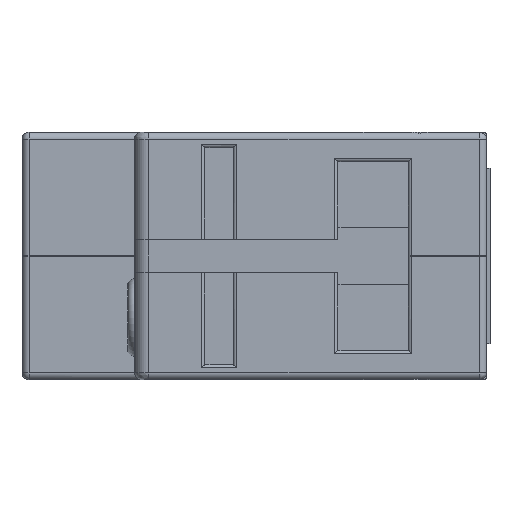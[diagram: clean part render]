
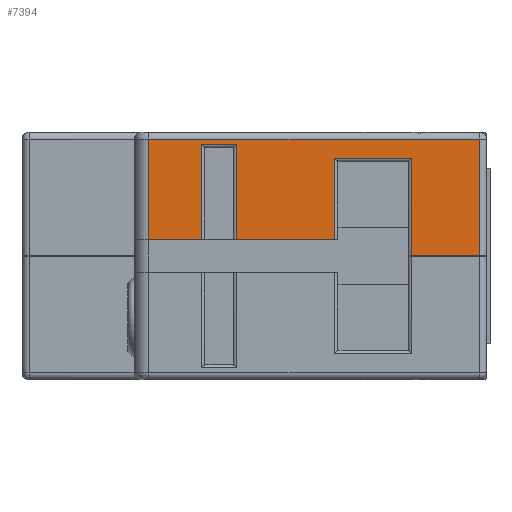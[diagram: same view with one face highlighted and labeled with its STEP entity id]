
A CAD part, left-side view. The second image highlights one B-rep face of the part: STEP entity #7394.
In plain terms, the highlighted planar face has unit normal (-1, 0, 0).
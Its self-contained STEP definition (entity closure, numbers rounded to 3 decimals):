
#106=FACE_BOUND('',#2655,.T.);
#405=LINE('',#11038,#1232);
#407=LINE('',#11044,#1234);
#410=LINE('',#11052,#1237);
#411=LINE('',#11054,#1238);
#412=LINE('',#11056,#1239);
#413=LINE('',#11058,#1240);
#414=LINE('',#11060,#1241);
#415=LINE('',#11061,#1242);
#416=LINE('',#11064,#1243);
#417=LINE('',#11066,#1244);
#418=LINE('',#11068,#1245);
#419=LINE('',#11069,#1246);
#1232=VECTOR('',#8800,10.);
#1234=VECTOR('',#8806,10.);
#1237=VECTOR('',#8815,10.);
#1238=VECTOR('',#8816,10.);
#1239=VECTOR('',#8817,10.);
#1240=VECTOR('',#8818,10.);
#1241=VECTOR('',#8819,10.);
#1242=VECTOR('',#8820,10.);
#1243=VECTOR('',#8821,10.);
#1244=VECTOR('',#8822,10.);
#1245=VECTOR('',#8823,10.);
#1246=VECTOR('',#8824,10.);
#1956=PLANE('',#7914);
#2243=FACE_OUTER_BOUND('',#2654,.T.);
#2654=EDGE_LOOP('',(#5358,#5359,#5360,#5361,#5362,#5363,#5364,#5365));
#2655=EDGE_LOOP('',(#5366,#5367,#5368,#5369));
#3400=VERTEX_POINT('',#11035);
#3401=VERTEX_POINT('',#11037);
#3403=VERTEX_POINT('',#11043);
#3405=VERTEX_POINT('',#11051);
#3406=VERTEX_POINT('',#11053);
#3407=VERTEX_POINT('',#11055);
#3408=VERTEX_POINT('',#11057);
#3409=VERTEX_POINT('',#11059);
#3410=VERTEX_POINT('',#11062);
#3411=VERTEX_POINT('',#11063);
#3412=VERTEX_POINT('',#11065);
#3413=VERTEX_POINT('',#11067);
#4152=EDGE_CURVE('',#3400,#3401,#405,.T.);
#4155=EDGE_CURVE('',#3403,#3401,#407,.T.);
#4160=EDGE_CURVE('',#3400,#3405,#410,.T.);
#4161=EDGE_CURVE('',#3405,#3406,#411,.T.);
#4162=EDGE_CURVE('',#3406,#3407,#412,.T.);
#4163=EDGE_CURVE('',#3408,#3407,#413,.T.);
#4164=EDGE_CURVE('',#3409,#3408,#414,.T.);
#4165=EDGE_CURVE('',#3403,#3409,#415,.T.);
#4166=EDGE_CURVE('',#3410,#3411,#416,.T.);
#4167=EDGE_CURVE('',#3412,#3410,#417,.T.);
#4168=EDGE_CURVE('',#3413,#3412,#418,.T.);
#4169=EDGE_CURVE('',#3411,#3413,#419,.T.);
#5358=ORIENTED_EDGE('',*,*,#4152,.F.);
#5359=ORIENTED_EDGE('',*,*,#4160,.T.);
#5360=ORIENTED_EDGE('',*,*,#4161,.T.);
#5361=ORIENTED_EDGE('',*,*,#4162,.T.);
#5362=ORIENTED_EDGE('',*,*,#4163,.F.);
#5363=ORIENTED_EDGE('',*,*,#4164,.F.);
#5364=ORIENTED_EDGE('',*,*,#4165,.F.);
#5365=ORIENTED_EDGE('',*,*,#4155,.T.);
#5366=ORIENTED_EDGE('',*,*,#4166,.F.);
#5367=ORIENTED_EDGE('',*,*,#4167,.F.);
#5368=ORIENTED_EDGE('',*,*,#4168,.F.);
#5369=ORIENTED_EDGE('',*,*,#4169,.F.);
#7394=ADVANCED_FACE('',(#2243,#106),#1956,.T.);
#7914=AXIS2_PLACEMENT_3D('',#11050,#8813,#8814);
#8800=DIRECTION('',(0.,0.,-1.));
#8806=DIRECTION('',(0.,-1.,0.));
#8813=DIRECTION('center_axis',(-1.,0.,0.));
#8814=DIRECTION('ref_axis',(0.,-1.,0.));
#8815=DIRECTION('',(0.,-1.,0.));
#8816=DIRECTION('',(0.,0.,-1.));
#8817=DIRECTION('',(0.,-1.,0.));
#8818=DIRECTION('',(0.,0.,-1.));
#8819=DIRECTION('',(0.,-1.,0.));
#8820=DIRECTION('',(0.,0.,1.));
#8821=DIRECTION('',(0.,-1.,0.));
#8822=DIRECTION('',(0.,0.,-1.));
#8823=DIRECTION('',(0.,1.,0.));
#8824=DIRECTION('',(0.,0.,1.));
#11035=CARTESIAN_POINT('',(0.,21.6,31.5));
#11037=CARTESIAN_POINT('',(0.,21.6,19.925));
#11038=CARTESIAN_POINT('',(0.,21.6,15.5));
#11043=CARTESIAN_POINT('',(0.,48.,19.925));
#11044=CARTESIAN_POINT('',(0.,35.8,19.925));
#11050=CARTESIAN_POINT('Origin',(0.,50.,0.));
#11051=CARTESIAN_POINT('',(0.,10.6,31.5));
#11052=CARTESIAN_POINT('',(0.,30.55,31.5));
#11053=CARTESIAN_POINT('',(0.,10.6,17.625));
#11054=CARTESIAN_POINT('',(0.,10.6,10.85));
#11055=CARTESIAN_POINT('',(0.,1.,17.625));
#11056=CARTESIAN_POINT('',(0.,41.725,17.625));
#11057=CARTESIAN_POINT('',(0.,1.,34.2));
#11058=CARTESIAN_POINT('',(0.,1.,0.));
#11059=CARTESIAN_POINT('',(0.,48.,34.2));
#11060=CARTESIAN_POINT('',(0.,40.001,34.2));
#11061=CARTESIAN_POINT('',(0.,48.,0.));
#11062=CARTESIAN_POINT('',(0.,40.5,20.));
#11063=CARTESIAN_POINT('',(0.,35.5,20.));
#11064=CARTESIAN_POINT('',(0.,45.,20.));
#11065=CARTESIAN_POINT('',(0.,40.5,33.5));
#11066=CARTESIAN_POINT('',(0.,40.5,16.5));
#11067=CARTESIAN_POINT('',(0.,35.5,33.5));
#11068=CARTESIAN_POINT('',(0.,43.,33.5));
#11069=CARTESIAN_POINT('',(0.,35.5,10.));
